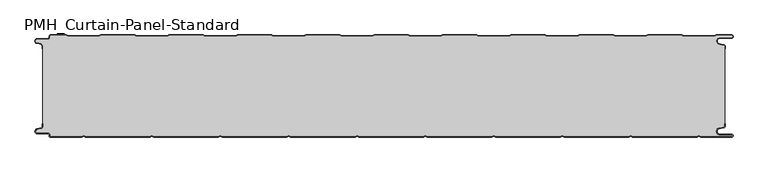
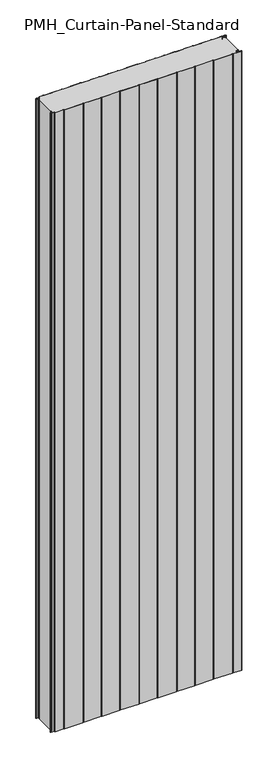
"""IFC4 building model written with IfcOpenShell, lengths in millimetres: plate geometry, PMH_Curtain-Panel-Standard : ACH_PMH_Acoustic-Sectioning-Panel_150M."""

from ifc_helpers import new_model, si_unit, point, frame_2d, origin, origin_with_axes, place, context, project, spatial, polyline, circle_curve, trimmed, segment, composite_curve, outline, extrude, source, transform, mapped, element, save


def pmh_curtain_panel_standard_cda4ae5a(model_context):
    return source(origin(), model_context, "Body", "SweptSolid", [
        extrude(outline(composite_curve([segment(polyline([(-500.0, 15.878557), (-500.0, 20.0), (-499.2, 20.0), (-499.2, 15.878557)]), True, "CONTINUOUS"), segment(trimmed(circle_curve(frame_2d((-502.0, 15.878557)), 2.8), [point((-499.2, 15.878557))], [point((-501.370137, 13.1503208))], False, "CARTESIAN"), True, "CONTINUOUS"), segment(polyline([(-501.370137, 13.1503208), (-507.529863, 11.728236)]), True, "CONTINUOUS"), segment(trimmed(circle_curve(frame_2d((-506.9, 9.0)), 2.8), [point((-507.529863, 11.728236))], [point((-506.9, 6.2))], True, "CARTESIAN"), True, "CONTINUOUS"), segment(polyline([(-506.9, 6.2), (-491.4, 6.2)]), True, "CONTINUOUS"), segment(trimmed(circle_curve(frame_2d((-491.4, 3.4)), 2.8), [point((-491.4, 6.2))], [point((-488.6, 3.4))], False, "CARTESIAN"), True, "CONTINUOUS"), segment(polyline([(-488.6, 3.4), (-488.6, 2.0)]), True, "CONTINUOUS"), segment(trimmed(circle_curve(frame_2d((-487.4, 2.0)), 1.2), [point((-488.6, 2.0))], [point((-487.4, 0.8))], True, "CARTESIAN"), True, "CONTINUOUS"), segment(polyline([(-487.4, 0.8), (-442.3143588, 0.8), (-439.4, 2.482606), (-436.4856412, 0.8), (-342.3143588, 0.8), (-339.4, 2.482606), (-336.4856412, 0.8), (-242.3143588, 0.8), (-239.4, 2.482606), (-236.4856412, 0.8), (-142.3143588, 0.8), (-139.4, 2.482606), (-136.4856412, 0.8), (-42.3143588, 0.8), (-39.4, 2.482606), (-36.4856412, 0.8), (57.6856412, 0.8), (60.6, 2.482606), (63.5143588, 0.8), (157.6856412, 0.8), (160.6, 2.482606), (163.5143588, 0.8), (257.6856412, 0.8), (260.6, 2.482606), (263.5143588, 0.8), (357.6856412, 0.8), (360.6, 2.482606), (363.5143588, 0.8), (457.6856412, 0.8), (460.6, 2.482606), (463.5143588, 0.8), (508.1, 0.8)]), True, "CONTINUOUS"), segment(trimmed(circle_curve(frame_2d((508.1, 2.5)), 1.7), [point((508.1, 0.8))], [point((508.1, 4.2))], True, "CARTESIAN"), True, "CONTINUOUS"), segment(polyline([(508.1, 4.2), (491.1, 4.2)]), True, "CONTINUOUS"), segment(trimmed(circle_curve(frame_2d((491.1, 9.0)), 4.8), [point((491.1, 4.2))], [point((490.2664884, 13.7270771))], False, "CARTESIAN"), True, "CONTINUOUS"), segment(polyline([(490.2664884, 13.7270771), (496.7125669, 14.8636953)]), True, "CONTINUOUS"), segment(trimmed(circle_curve(frame_2d((496.4, 16.6363492)), 1.8), [point((496.7125669, 14.8636953))], [point((498.2, 16.6363492))], True, "CARTESIAN"), True, "CONTINUOUS"), segment(polyline([(498.2, 16.6363492), (498.2, 20.0), (499.0, 20.0), (499.0, 16.6363492)]), True, "CONTINUOUS"), segment(trimmed(circle_curve(frame_2d((496.4, 16.6363492)), 2.6), [point((499.0, 16.6363492))], [point((496.8514855, 14.0758491))], False, "CARTESIAN"), True, "CONTINUOUS"), segment(polyline([(496.8514855, 14.0758491), (490.405407, 12.939231)]), True, "CONTINUOUS"), segment(trimmed(circle_curve(frame_2d((491.1, 9.0)), 4.0), [point((490.405407, 12.939231))], [point((491.1, 5.0))], True, "CARTESIAN"), True, "CONTINUOUS"), segment(polyline([(491.1, 5.0), (508.1, 5.0)]), True, "CONTINUOUS"), segment(trimmed(circle_curve(frame_2d((508.1, 2.5)), 2.5), [point((508.1, 5.0))], [point((508.1, 0.0))], False, "CARTESIAN"), True, "CONTINUOUS"), segment(polyline([(508.1, 0.0), (463.2999995, 0.0), (460.6, 1.5588455), (457.9000005, 0.0), (363.2999995, 0.0), (360.6, 1.5588455), (357.9000005, 0.0), (263.2999995, 0.0), (260.6, 1.5588455), (257.9000005, 0.0), (163.2999995, 0.0), (160.6, 1.5588455), (157.9000005, 0.0), (63.2999995, 0.0), (60.6, 1.5588455), (57.9000005, 0.0), (-36.7000005, 0.0), (-39.4, 1.5588455), (-42.0999995, 0.0), (-136.7000005, 0.0), (-139.4, 1.5588455), (-142.0999995, 0.0), (-236.7000005, 0.0), (-239.4, 1.5588455), (-242.0999995, 0.0), (-336.7000005, 0.0), (-339.4, 1.5588455), (-342.0999995, 0.0), (-436.7000005, 0.0), (-439.4, 1.5588455), (-442.0999995, 0.0), (-487.4, 0.0)]), True, "CONTINUOUS"), segment(trimmed(circle_curve(frame_2d((-487.4, 2.0)), 2.0), [point((-487.4, 0.0))], [point((-489.4, 2.0))], False, "CARTESIAN"), True, "CONTINUOUS"), segment(polyline([(-489.4, 2.0), (-489.4, 3.4)]), True, "CONTINUOUS"), segment(trimmed(circle_curve(frame_2d((-491.4, 3.4)), 2.0), [point((-489.4, 3.4))], [point((-491.4, 5.4))], True, "CARTESIAN"), True, "CONTINUOUS"), segment(polyline([(-491.4, 5.4), (-506.9, 5.4)]), True, "CONTINUOUS"), segment(trimmed(circle_curve(frame_2d((-506.9, 9.0)), 3.6), [point((-506.9, 5.4))], [point((-507.7098239, 12.5077322))], False, "CARTESIAN"), True, "CONTINUOUS"), segment(polyline([(-507.7098239, 12.5077322), (-501.5500979, 13.929817)]), True, "CONTINUOUS"), segment(trimmed(circle_curve(frame_2d((-502.0, 15.878557)), 2.0), [point((-501.5500979, 13.929817))], [point((-500.0, 15.878557))], True, "CARTESIAN"), True, "CONTINUOUS")], self_intersect=False)), origin_with_axes(), (0.0, 0.0, 1.0), 3500.0),
        extrude(outline(composite_curve([segment(trimmed(circle_curve(frame_2d((-502.0, 134.121443)), 2.8), [point((-499.2, 134.121443))], [point((-501.370137, 136.8496792))], True, "CARTESIAN"), True, "CONTINUOUS"), segment(polyline([(-501.370137, 136.8496792), (-507.529863, 138.271764)]), True, "CONTINUOUS"), segment(trimmed(circle_curve(frame_2d((-506.9, 141.0)), 2.7999998), [point((-507.529863, 138.271764))], [point((-506.9, 143.7999998))], False, "CARTESIAN"), True, "CONTINUOUS"), segment(polyline([(-506.9, 143.7999998), (-491.4, 143.7999998)]), True, "CONTINUOUS"), segment(trimmed(circle_curve(frame_2d((-491.4, 146.5999998)), 2.8), [point((-491.4, 143.7999998))], [point((-488.6, 146.5999998))], True, "CARTESIAN"), True, "CONTINUOUS"), segment(polyline([(-488.6, 146.5999998), (-488.6, 148.0)]), True, "CONTINUOUS"), segment(trimmed(circle_curve(frame_2d((-487.4, 148.0)), 1.2), [point((-488.6, 148.0))], [point((-487.4, 149.2))], False, "CARTESIAN"), True, "CONTINUOUS"), segment(polyline([(-487.4, 149.2), (-464.6143592, 149.2), (-462.0162816, 147.7), (-416.7875654, 147.7), (-414.1894878, 149.2), (-364.6143592, 149.2), (-362.0162816, 147.7), (-316.7875654, 147.7), (-314.1894878, 149.2), (-264.6143592, 149.2), (-262.0162816, 147.7), (-216.7875654, 147.7), (-214.1894878, 149.2), (-164.6143592, 149.2), (-162.0162816, 147.7), (-116.7875654, 147.7), (-114.1894878, 149.2), (-64.6143592, 149.2), (-62.0162816, 147.7), (-16.7875654, 147.7), (-14.1894878, 149.2), (35.3856408, 149.2), (37.9837184, 147.7), (83.2124346, 147.7), (85.8105122, 149.2), (135.3856408, 149.2), (137.9837184, 147.7), (183.2124346, 147.7), (185.8105122, 149.2), (235.3856408, 149.2), (237.9837184, 147.7), (283.2124346, 147.7), (285.8105122, 149.2), (335.3856408, 149.2), (337.9837184, 147.7), (383.2124346, 147.7), (385.8105122, 149.2), (435.3856408, 149.2), (437.9837184, 147.7), (483.2124346, 147.7), (485.8105122, 149.2), (508.1, 149.2)]), True, "CONTINUOUS"), segment(trimmed(circle_curve(frame_2d((508.1, 147.5)), 1.7), [point((508.1, 149.2))], [point((508.1, 145.8000001))], False, "CARTESIAN"), True, "CONTINUOUS"), segment(polyline([(508.1, 145.8000001), (491.1, 145.8000001)]), True, "CONTINUOUS"), segment(trimmed(circle_curve(frame_2d((491.1, 141.0000002)), 4.7999999), [point((491.1, 145.8000001))], [point((490.266489, 136.272923))], True, "CARTESIAN"), True, "CONTINUOUS"), segment(polyline([(490.266489, 136.272923), (496.7125666, 135.1363059)]), True, "CONTINUOUS"), segment(trimmed(circle_curve(frame_2d((496.4, 133.363652)), 1.8), [point((496.7125666, 135.1363059))], [point((498.2, 133.363652))], False, "CARTESIAN"), True, "CONTINUOUS"), segment(polyline([(498.2, 133.363652), (498.2, 16.6363492)]), True, "CONTINUOUS"), segment(trimmed(circle_curve(frame_2d((496.4, 16.6363492)), 1.8), [point((498.2, 16.6363492))], [point((496.7125668, 14.8636953))], False, "CARTESIAN"), True, "CONTINUOUS"), segment(polyline([(496.7125668, 14.8636953), (490.2664883, 13.7270771)]), True, "CONTINUOUS"), segment(trimmed(circle_curve(frame_2d((491.1, 9.0)), 4.8), [point((490.2664883, 13.7270771))], [point((491.1, 4.2))], True, "CARTESIAN"), True, "CONTINUOUS"), segment(polyline([(491.1, 4.2), (508.1, 4.2)]), True, "CONTINUOUS"), segment(trimmed(circle_curve(frame_2d((508.1, 2.5)), 1.7), [point((508.1, 4.2))], [point((508.1, 0.8))], False, "CARTESIAN"), True, "CONTINUOUS"), segment(polyline([(508.1, 0.8), (463.5143587, 0.8), (460.5999999, 2.482606), (457.6856411, 0.8), (363.5143588, 0.8), (360.5999999, 2.482606), (357.6856411, 0.8), (263.5143588, 0.8), (260.5999999, 2.482606), (257.6856411, 0.8), (163.5143588, 0.8), (160.5999999, 2.482606), (157.6856411, 0.8), (63.5143588, 0.8), (60.5999999, 2.482606), (57.6856411, 0.8), (-36.4856412, 0.8), (-39.4000001, 2.482606), (-42.3143589, 0.8), (-136.4856412, 0.8), (-139.4000001, 2.482606), (-142.3143589, 0.8), (-236.4856412, 0.8), (-239.4000001, 2.482606), (-242.3143589, 0.8), (-336.4856412, 0.8), (-339.4000001, 2.482606), (-342.3143589, 0.8), (-436.4856412, 0.8), (-439.4000001, 2.482606), (-442.3143589, 0.8), (-487.4000001, 0.8)]), True, "CONTINUOUS"), segment(trimmed(circle_curve(frame_2d((-487.4000001, 2.0)), 1.2), [point((-487.4000001, 0.8))], [point((-488.6000001, 2.0))], False, "CARTESIAN"), True, "CONTINUOUS"), segment(polyline([(-488.6000001, 2.0), (-488.6000001, 3.4)]), True, "CONTINUOUS"), segment(trimmed(circle_curve(frame_2d((-491.4000001, 3.4)), 2.8), [point((-488.6000001, 3.4))], [point((-491.4000001, 6.2))], True, "CARTESIAN"), True, "CONTINUOUS"), segment(polyline([(-491.4000001, 6.2), (-506.9, 6.2)]), True, "CONTINUOUS"), segment(trimmed(circle_curve(frame_2d((-506.9, 9.0)), 2.8), [point((-506.9, 6.2))], [point((-507.5298631, 11.7282362))], False, "CARTESIAN"), True, "CONTINUOUS"), segment(polyline([(-507.5298631, 11.7282362), (-501.370137, 13.1503212)]), True, "CONTINUOUS"), segment(trimmed(circle_curve(frame_2d((-502.0, 15.8785573)), 2.8), [point((-501.370137, 13.1503212))], [point((-499.2, 15.8785573))], True, "CARTESIAN"), True, "CONTINUOUS"), segment(polyline([(-499.2, 15.8785573), (-499.2, 134.121443)]), True, "CONTINUOUS")], self_intersect=False)), origin_with_axes(), (0.0, 0.0, 1.0), 3500.0),
        extrude(outline(composite_curve([segment(polyline([(-487.4, 150.0), (-464.3999999, 150.0), (-461.8019223, 148.5), (-417.0019247, 148.5), (-414.4038471, 150.0), (-364.3999999, 150.0), (-361.8019223, 148.5), (-317.0019247, 148.5), (-314.4038471, 150.0), (-264.3999999, 150.0), (-261.8019223, 148.5), (-217.0019247, 148.5), (-214.4038471, 150.0), (-164.3999999, 150.0), (-161.8019223, 148.5), (-117.0019247, 148.5), (-114.4038471, 150.0), (-64.3999999, 150.0), (-61.8019223, 148.5), (-17.0019247, 148.5), (-14.4038471, 150.0), (35.6000001, 150.0), (38.1980777, 148.5), (82.9980753, 148.5), (85.5961529, 150.0), (135.6000001, 150.0), (138.1980777, 148.5), (182.9980753, 148.5), (185.5961529, 150.0), (235.6000001, 150.0), (238.1980777, 148.5), (282.9980753, 148.5), (285.5961529, 150.0), (335.6000001, 150.0), (338.1980777, 148.5), (382.9980753, 148.5), (385.5961529, 150.0), (435.6000001, 150.0), (438.1980777, 148.5), (482.9980753, 148.5), (485.5961529, 150.0), (508.1, 150.0)]), True, "CONTINUOUS"), segment(trimmed(circle_curve(frame_2d((508.1, 147.5)), 2.5), [point((508.1, 150.0))], [point((508.1, 145.0))], False, "CARTESIAN"), True, "CONTINUOUS"), segment(polyline([(508.1, 145.0), (491.1, 145.0)]), True, "CONTINUOUS"), segment(trimmed(circle_curve(frame_2d((491.1, 141.0)), 4.0), [point((491.1, 145.0))], [point((490.4054075, 137.060769))], True, "CARTESIAN"), True, "CONTINUOUS"), segment(polyline([(490.4054075, 137.060769), (496.8514851, 135.924152)]), True, "CONTINUOUS"), segment(trimmed(circle_curve(frame_2d((496.4, 133.363652)), 2.6), [point((496.8514851, 135.924152))], [point((499.0, 133.363652))], False, "CARTESIAN"), True, "CONTINUOUS"), segment(polyline([(499.0, 133.363652), (499.0, 130.0), (498.2, 130.0), (498.2, 133.363652)]), True, "CONTINUOUS"), segment(trimmed(circle_curve(frame_2d((496.4, 133.363652)), 1.8), [point((498.2, 133.363652))], [point((496.7125666, 135.136306))], True, "CARTESIAN"), True, "CONTINUOUS"), segment(polyline([(496.7125666, 135.136306), (490.266489, 136.2729229)]), True, "CONTINUOUS"), segment(trimmed(circle_curve(frame_2d((491.1, 141.0)), 4.8), [point((490.266489, 136.2729229))], [point((491.1, 145.8))], False, "CARTESIAN"), True, "CONTINUOUS"), segment(polyline([(491.1, 145.8), (508.1, 145.8)]), True, "CONTINUOUS"), segment(trimmed(circle_curve(frame_2d((508.1, 147.5)), 1.7), [point((508.1, 145.8))], [point((508.1, 149.2))], True, "CARTESIAN"), True, "CONTINUOUS"), segment(polyline([(508.1, 149.2), (485.8105122, 149.2), (483.2124346, 147.7), (437.9837184, 147.7), (435.3856408, 149.2), (385.8105122, 149.2), (383.2124346, 147.7), (337.9837184, 147.7), (335.3856408, 149.2), (285.8105122, 149.2), (283.2124346, 147.7), (237.9837184, 147.7), (235.3856408, 149.2), (185.8105122, 149.2), (183.2124346, 147.7), (137.9837184, 147.7), (135.3856408, 149.2), (85.8105122, 149.2), (83.2124346, 147.7), (37.9837184, 147.7), (35.3856408, 149.2), (-14.1894878, 149.2), (-16.7875654, 147.7), (-62.0162816, 147.7), (-64.6143592, 149.2), (-114.1894878, 149.2), (-116.7875654, 147.7), (-162.0162816, 147.7), (-164.6143592, 149.2), (-214.1894878, 149.2), (-216.7875654, 147.7), (-262.0162816, 147.7), (-264.6143592, 149.2), (-314.1894878, 149.2), (-316.7875654, 147.7), (-362.0162816, 147.7), (-364.6143592, 149.2), (-414.1894878, 149.2), (-416.7875654, 147.7), (-462.0162816, 147.7), (-464.6143592, 149.2), (-487.4, 149.2)]), True, "CONTINUOUS"), segment(trimmed(circle_curve(frame_2d((-487.4, 148.0)), 1.2), [point((-487.4, 149.2))], [point((-488.6, 148.0))], True, "CARTESIAN"), True, "CONTINUOUS"), segment(polyline([(-488.6, 148.0), (-488.6, 146.6)]), True, "CONTINUOUS"), segment(trimmed(circle_curve(frame_2d((-491.4, 146.6)), 2.8), [point((-488.6, 146.6))], [point((-491.4, 143.8))], False, "CARTESIAN"), True, "CONTINUOUS"), segment(polyline([(-491.4, 143.8), (-506.9, 143.8)]), True, "CONTINUOUS"), segment(trimmed(circle_curve(frame_2d((-506.9, 141.0)), 2.8), [point((-506.9, 143.8))], [point((-507.529863, 138.2717638))], True, "CARTESIAN"), True, "CONTINUOUS"), segment(polyline([(-507.529863, 138.2717638), (-501.370137, 136.849679)]), True, "CONTINUOUS"), segment(trimmed(circle_curve(frame_2d((-502.0, 134.121443)), 2.8), [point((-501.370137, 136.849679))], [point((-499.2, 134.121443))], False, "CARTESIAN"), True, "CONTINUOUS"), segment(polyline([(-499.2, 134.121443), (-499.2, 130.0), (-500.0, 130.0), (-500.0, 134.121443)]), True, "CONTINUOUS"), segment(trimmed(circle_curve(frame_2d((-502.0, 134.121443)), 2.0), [point((-500.0, 134.121443))], [point((-501.5500978, 136.0701831))], True, "CARTESIAN"), True, "CONTINUOUS"), segment(polyline([(-501.5500978, 136.0701831), (-507.7098239, 137.492268)]), True, "CONTINUOUS"), segment(trimmed(circle_curve(frame_2d((-506.9, 141.0)), 3.6), [point((-507.7098239, 137.492268))], [point((-506.9, 144.6))], False, "CARTESIAN"), True, "CONTINUOUS"), segment(polyline([(-506.9, 144.6), (-491.4, 144.6)]), True, "CONTINUOUS"), segment(trimmed(circle_curve(frame_2d((-491.4, 146.6)), 2.0), [point((-491.4, 144.6))], [point((-489.4, 146.6))], True, "CARTESIAN"), True, "CONTINUOUS"), segment(polyline([(-489.4, 146.6), (-489.4, 148.0)]), True, "CONTINUOUS"), segment(trimmed(circle_curve(frame_2d((-487.4, 148.0)), 2.0), [point((-489.4, 148.0))], [point((-487.4, 150.0))], False, "CARTESIAN"), True, "CONTINUOUS")], self_intersect=False)), origin_with_axes(), (0.0, 0.0, 1.0), 3500.0),
    ])


if __name__ == "__main__":
    model = new_model("IFC4")
    model_context = context("Model", 3, world=origin())
    ifc_project = project(units=[si_unit("LENGTHUNIT", "METRE", prefix="MILLI")], contexts=[model_context])
    site = spatial("IfcSite", under=ifc_project)
    building = spatial("IfcBuilding", under=site)
    placement = place(None, origin())
    pmh_curtain_panel_standard_shape = pmh_curtain_panel_standard_cda4ae5a(model_context)
    element("IfcPlate", 1, ObjectType="PMH_Curtain-Panel-Standard : ACH_PMH_Acoustic-Sectioning-Panel_150M", at=placement, inside=building, context=model_context, shape_type="MappedRepresentation", body=[
        mapped(pmh_curtain_panel_standard_shape, transform((0.0, 0.0, 0.0), x_axis=(1.0, 0.0, 0.0), y_axis=(0.0, 1.0, 0.0), z_axis=(0.0, 0.0, 1.0))),
    ])
    save(model, "model.ifc")
